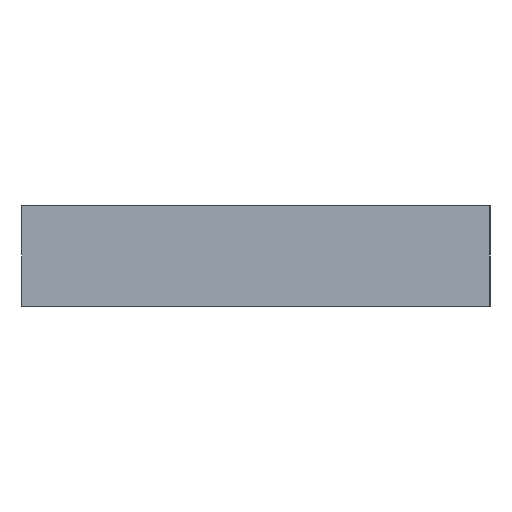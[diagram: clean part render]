
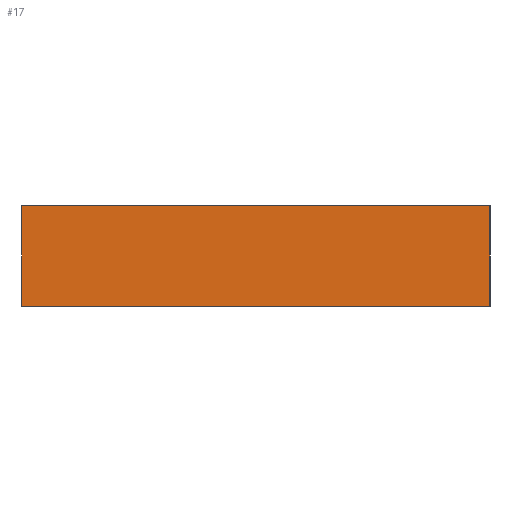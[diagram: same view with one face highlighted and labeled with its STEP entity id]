
A CAD part, left-side view. The second image highlights one B-rep face of the part: STEP entity #17.
In plain terms, the highlighted planar face has unit normal (-1, 0, 0).
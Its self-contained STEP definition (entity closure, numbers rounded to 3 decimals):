
#17 = ADVANCED_FACE('',(#18),#32,.F.);
#18 = FACE_BOUND('',#19,.F.);
#19 = EDGE_LOOP('',(#20,#55,#83,#111));
#20 = ORIENTED_EDGE('',*,*,#21,.F.);
#21 = EDGE_CURVE('',#22,#24,#26,.T.);
#22 = VERTEX_POINT('',#23);
#23 = CARTESIAN_POINT('',(-10.75,-22.02,0.515));
#24 = VERTEX_POINT('',#25);
#25 = CARTESIAN_POINT('',(-10.75,-22.02,2.015));
#26 = SURFACE_CURVE('',#27,(#31,#43),.PCURVE_S1.);
#27 = LINE('',#28,#29);
#28 = CARTESIAN_POINT('',(-10.75,-22.02,0.515));
#29 = VECTOR('',#30,1.);
#30 = DIRECTION('',(0.,0.,1.));
#31 = PCURVE('',#32,#37);
#32 = PLANE('',#33);
#33 = AXIS2_PLACEMENT_3D('',#34,#35,#36);
#34 = CARTESIAN_POINT('',(-10.75,-22.02,0.515));
#35 = DIRECTION('',(1.,0.,0.));
#36 = DIRECTION('',(0.,0.,1.));
#37 = DEFINITIONAL_REPRESENTATION('',(#38),#42);
#38 = LINE('',#39,#40);
#39 = CARTESIAN_POINT('',(0.,0.));
#40 = VECTOR('',#41,1.);
#41 = DIRECTION('',(1.,0.));
#42 = ( GEOMETRIC_REPRESENTATION_CONTEXT(2) 
PARAMETRIC_REPRESENTATION_CONTEXT() REPRESENTATION_CONTEXT('2D SPACE',''
  ) );
#43 = PCURVE('',#44,#49);
#44 = PLANE('',#45);
#45 = AXIS2_PLACEMENT_3D('',#46,#47,#48);
#46 = CARTESIAN_POINT('',(-10.75,-22.02,0.515));
#47 = DIRECTION('',(0.,1.,0.));
#48 = DIRECTION('',(0.,0.,1.));
#49 = DEFINITIONAL_REPRESENTATION('',(#50),#54);
#50 = LINE('',#51,#52);
#51 = CARTESIAN_POINT('',(0.,0.));
#52 = VECTOR('',#53,1.);
#53 = DIRECTION('',(1.,0.));
#54 = ( GEOMETRIC_REPRESENTATION_CONTEXT(2) 
PARAMETRIC_REPRESENTATION_CONTEXT() REPRESENTATION_CONTEXT('2D SPACE',''
  ) );
#55 = ORIENTED_EDGE('',*,*,#56,.T.);
#56 = EDGE_CURVE('',#22,#57,#59,.T.);
#57 = VERTEX_POINT('',#58);
#58 = CARTESIAN_POINT('',(-10.75,-15.02,0.515));
#59 = SURFACE_CURVE('',#60,(#64,#71),.PCURVE_S1.);
#60 = LINE('',#61,#62);
#61 = CARTESIAN_POINT('',(-10.75,-22.02,0.515));
#62 = VECTOR('',#63,1.);
#63 = DIRECTION('',(0.,1.,0.));
#64 = PCURVE('',#32,#65);
#65 = DEFINITIONAL_REPRESENTATION('',(#66),#70);
#66 = LINE('',#67,#68);
#67 = CARTESIAN_POINT('',(0.,0.));
#68 = VECTOR('',#69,1.);
#69 = DIRECTION('',(0.,-1.));
#70 = ( GEOMETRIC_REPRESENTATION_CONTEXT(2) 
PARAMETRIC_REPRESENTATION_CONTEXT() REPRESENTATION_CONTEXT('2D SPACE',''
  ) );
#71 = PCURVE('',#72,#77);
#72 = PLANE('',#73);
#73 = AXIS2_PLACEMENT_3D('',#74,#75,#76);
#74 = CARTESIAN_POINT('',(-10.75,-22.02,0.515));
#75 = DIRECTION('',(0.,0.,1.));
#76 = DIRECTION('',(1.,0.,0.));
#77 = DEFINITIONAL_REPRESENTATION('',(#78),#82);
#78 = LINE('',#79,#80);
#79 = CARTESIAN_POINT('',(0.,0.));
#80 = VECTOR('',#81,1.);
#81 = DIRECTION('',(0.,1.));
#82 = ( GEOMETRIC_REPRESENTATION_CONTEXT(2) 
PARAMETRIC_REPRESENTATION_CONTEXT() REPRESENTATION_CONTEXT('2D SPACE',''
  ) );
#83 = ORIENTED_EDGE('',*,*,#84,.T.);
#84 = EDGE_CURVE('',#57,#85,#87,.T.);
#85 = VERTEX_POINT('',#86);
#86 = CARTESIAN_POINT('',(-10.75,-15.02,2.015));
#87 = SURFACE_CURVE('',#88,(#92,#99),.PCURVE_S1.);
#88 = LINE('',#89,#90);
#89 = CARTESIAN_POINT('',(-10.75,-15.02,0.515));
#90 = VECTOR('',#91,1.);
#91 = DIRECTION('',(0.,0.,1.));
#92 = PCURVE('',#32,#93);
#93 = DEFINITIONAL_REPRESENTATION('',(#94),#98);
#94 = LINE('',#95,#96);
#95 = CARTESIAN_POINT('',(0.,-7.));
#96 = VECTOR('',#97,1.);
#97 = DIRECTION('',(1.,0.));
#98 = ( GEOMETRIC_REPRESENTATION_CONTEXT(2) 
PARAMETRIC_REPRESENTATION_CONTEXT() REPRESENTATION_CONTEXT('2D SPACE',''
  ) );
#99 = PCURVE('',#100,#105);
#100 = PLANE('',#101);
#101 = AXIS2_PLACEMENT_3D('',#102,#103,#104);
#102 = CARTESIAN_POINT('',(-10.75,-15.02,0.515));
#103 = DIRECTION('',(0.,1.,0.));
#104 = DIRECTION('',(0.,0.,1.));
#105 = DEFINITIONAL_REPRESENTATION('',(#106),#110);
#106 = LINE('',#107,#108);
#107 = CARTESIAN_POINT('',(0.,0.));
#108 = VECTOR('',#109,1.);
#109 = DIRECTION('',(1.,0.));
#110 = ( GEOMETRIC_REPRESENTATION_CONTEXT(2) 
PARAMETRIC_REPRESENTATION_CONTEXT() REPRESENTATION_CONTEXT('2D SPACE',''
  ) );
#111 = ORIENTED_EDGE('',*,*,#112,.F.);
#112 = EDGE_CURVE('',#24,#85,#113,.T.);
#113 = SURFACE_CURVE('',#114,(#118,#125),.PCURVE_S1.);
#114 = LINE('',#115,#116);
#115 = CARTESIAN_POINT('',(-10.75,-22.02,2.015));
#116 = VECTOR('',#117,1.);
#117 = DIRECTION('',(0.,1.,0.));
#118 = PCURVE('',#32,#119);
#119 = DEFINITIONAL_REPRESENTATION('',(#120),#124);
#120 = LINE('',#121,#122);
#121 = CARTESIAN_POINT('',(1.5,0.));
#122 = VECTOR('',#123,1.);
#123 = DIRECTION('',(0.,-1.));
#124 = ( GEOMETRIC_REPRESENTATION_CONTEXT(2) 
PARAMETRIC_REPRESENTATION_CONTEXT() REPRESENTATION_CONTEXT('2D SPACE',''
  ) );
#125 = PCURVE('',#126,#131);
#126 = PLANE('',#127);
#127 = AXIS2_PLACEMENT_3D('',#128,#129,#130);
#128 = CARTESIAN_POINT('',(-10.75,-22.02,2.015));
#129 = DIRECTION('',(0.,0.,1.));
#130 = DIRECTION('',(1.,0.,0.));
#131 = DEFINITIONAL_REPRESENTATION('',(#132),#136);
#132 = LINE('',#133,#134);
#133 = CARTESIAN_POINT('',(0.,0.));
#134 = VECTOR('',#135,1.);
#135 = DIRECTION('',(0.,1.));
#136 = ( GEOMETRIC_REPRESENTATION_CONTEXT(2) 
PARAMETRIC_REPRESENTATION_CONTEXT() REPRESENTATION_CONTEXT('2D SPACE',''
  ) );
